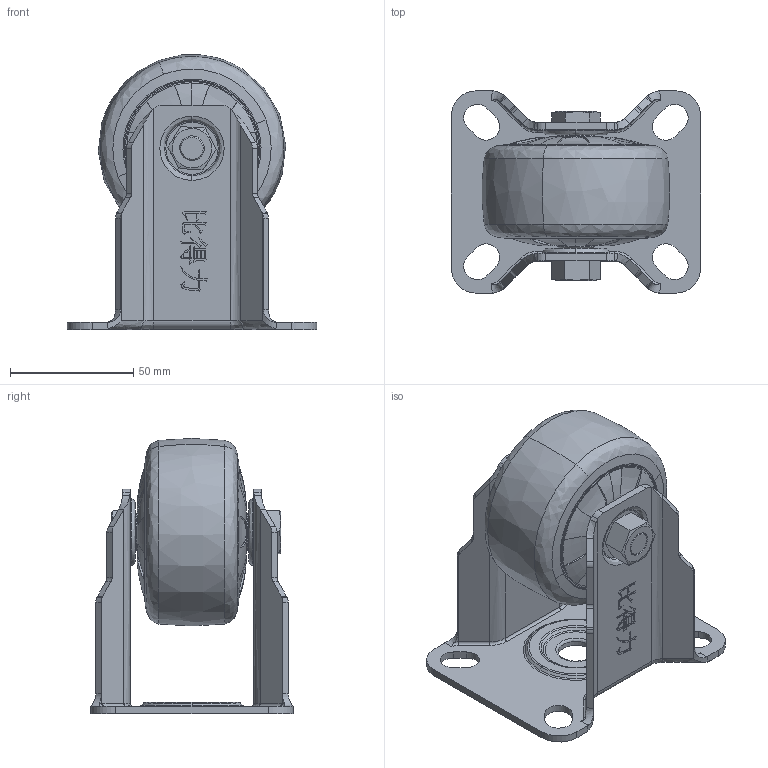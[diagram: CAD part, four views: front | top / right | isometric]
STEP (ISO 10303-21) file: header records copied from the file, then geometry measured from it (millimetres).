
FILE_DESCRIPTION (( 'STEP AP203' ), '1' );
FILE_NAME ('3渡嘐隅.STEP', '2024-12-29T08:51:08', ( '' ), ( '' ), 'SwSTEP 2.0', 'SolidWorks 2023', '' );
FILE_SCHEMA (( 'CONFIG_CONTROL_DESIGN' ));
Length unit declared in the file: millimetre
Products named in the file (3): 3寸固定; 防尘盖
Assembly tree (3 placements, depth 2):
  3寸固定
    3寸固定
    防尘盖  x2
Bounding box: 101 x 82 x 111.51 mm (x, y, z)
Volume: 209323.2 mm3; surface area: 121422.9 mm2
Topology: 32 solids, 32 shells, 1425 faces, 3779 edges, 2333 vertices
Faces by surface type: bspline 1187, plane 174, cylinder 60, torus 4
Entity records: 77297 total; most frequent: CARTESIAN_POINT 50638, ORIENTED_EDGE 7190, EDGE_CURVE 3595, DIRECTION 2793, VERTEX_POINT 2277, B_SPLINE_CURVE_WITH_KNOTS 1650, EDGE_LOOP 1508, ADVANCED_FACE 1385
